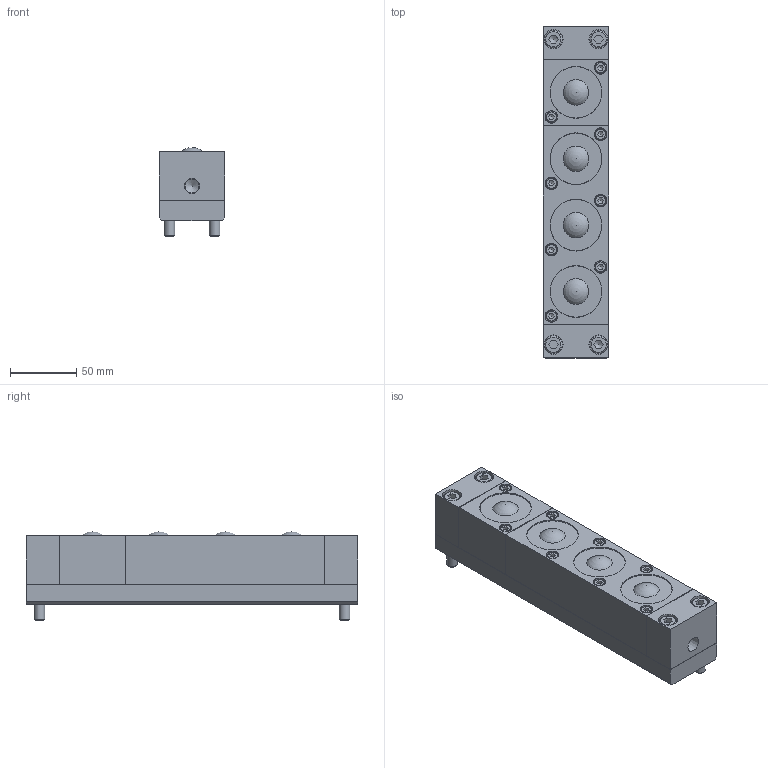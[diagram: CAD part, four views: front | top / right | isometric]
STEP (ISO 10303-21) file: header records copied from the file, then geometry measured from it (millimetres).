
FILE_DESCRIPTION(/* description */ (''),/* implementation_level */ '2;1');
FILE_NAME(/* name */ 'Z:\34-Tei\01-web 3Dデータ\41-ISR-50S型\ISR-50S-250-A.stp',/* time_stamp */ '2015-01-16T09:36:25+09:00',/* author */ ('yamaki'),/* organization */ (''),/* preprocessor_version */ 'ST-DEVELOPER v15.6',/* originating_system */ 'Autodesk Inventor 2015',/* authorisation */ '');
FILE_SCHEMA (('AUTOMOTIVE_DESIGN { 1 0 10303 214 3 1 1 }'));
Length unit declared in the file: millimetre
Products named in the file (6): 4200AT-01-250; 六角穴付きボルト-M8x55; 4200AT-02; 4200AT-00; 4200AT-03; ISR-50S
Bounding box: 49.5 x 250 x 67 mm (x, y, z)
Volume: 610865.3 mm3; surface area: 143386.4 mm2
Topology: 9 solids, 9 shells, 278 faces, 583 edges, 370 vertices
Faces by surface type: plane 189, cylinder 49, cone 22, torus 14, sphere 4
Full cylindrical faces by diameter (mm): 8 x2, 8.5 x8, 9 x2, 9.5 x8, 10.5 x1, 13 x4, 14.5 x4, 31.7 x4, 38.5 x4, 39 x4, 42 x8
Entity records: 5942 total; most frequent: CARTESIAN_POINT 1069, DIRECTION 948, ORIENTED_EDGE 834, EDGE_CURVE 417, AXIS2_PLACEMENT_3D 340, EDGE_LOOP 336, VERTEX_POINT 299, LINE 268
